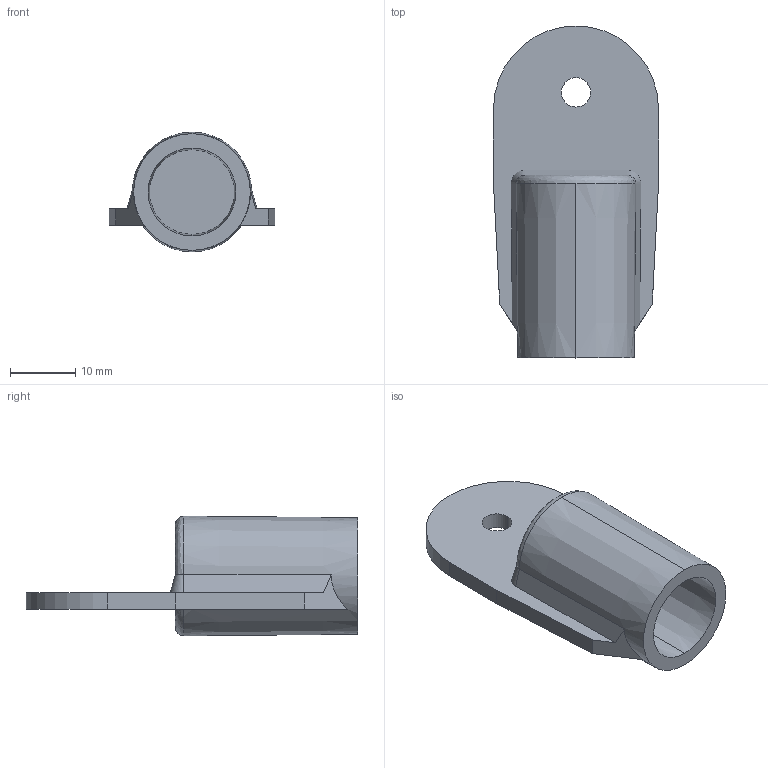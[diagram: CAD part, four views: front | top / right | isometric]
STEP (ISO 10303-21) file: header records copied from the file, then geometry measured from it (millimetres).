
FILE_DESCRIPTION (( 'STEP AP203' ), '1' );
FILE_NAME ('SA-.5DIACONECTR.step', '2019-09-11T18:25:29', ( 'ydmin' ), ( '' ), 'SwSTEP 2.0', 'SolidWorks 2017', '' );
FILE_SCHEMA (( 'CONFIG_CONTROL_DESIGN' ));
Length unit declared in the file: inch
Products named in the file (1): SA-.5DIACONECTR
Bounding box: 25.4 x 50.8 x 18.31 mm (x, y, z)
Volume: 5621.8 mm3; surface area: 4499.1 mm2
Topology: 1 solids, 1 shells, 26 faces, 69 edges, 46 vertices
Faces by surface type: plane 13, bspline 6, cone 4, cylinder 3
Entity records: 1050 total; most frequent: CARTESIAN_POINT 360, ORIENTED_EDGE 138, DIRECTION 109, EDGE_CURVE 69, VERTEX_POINT 46, AXIS2_PLACEMENT_3D 37, VECTOR 35, LINE 35
